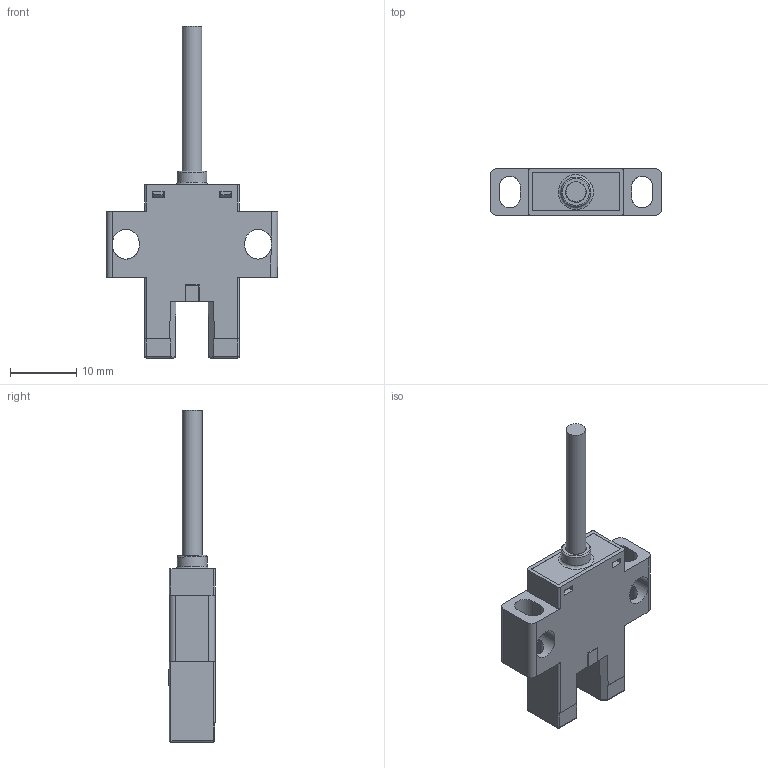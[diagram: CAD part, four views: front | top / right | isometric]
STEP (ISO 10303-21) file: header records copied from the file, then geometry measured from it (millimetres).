
FILE_DESCRIPTION(/* description */ (''),/* implementation_level */ '2;1');
FILE_NAME(/* name */ '306-出线.stp',/* time_stamp */ '2016-12-22T15:32:39+08:00',/* author */ (''),/* organization */ (''),/* preprocessor_version */ 'ST-DEVELOPER v16',/* originating_system */ 'SIEMENS PLM Software NX 10.0',/* authorisation */ '');
FILE_SCHEMA (('AP203_CONFIGURATION_CONTROLLED_3D_DESIGN_OF_MECHANICAL_PARTS_AND_ASSEMBLIES_MIM_LF { 1 0 10303 403 2 1 2}'));
Length unit declared in the file: millimetre
Products named in the file (1): Gavi0C983A09kasw
Bounding box: 26 x 7.15 x 50.19 mm (x, y, z)
Volume: 1828.5 mm3; surface area: 4032.2 mm2
Topology: 6 solids, 6 shells, 266 faces, 721 edges, 470 vertices
Faces by surface type: plane 195, cylinder 58, torus 6, sphere 5, bspline 2
Full cylindrical faces by diameter (mm): 0.8 x4, 1 x2, 1.2 x2, 3 x2, 3.6 x1, 4.5 x1, 5 x1
Entity records: 8769 total; most frequent: CARTESIAN_POINT 1982, ORIENTED_EDGE 1384, DIRECTION 1309, EDGE_CURVE 692, LINE 563, VECTOR 563, VERTEX_POINT 467, AXIS2_PLACEMENT_3D 373
